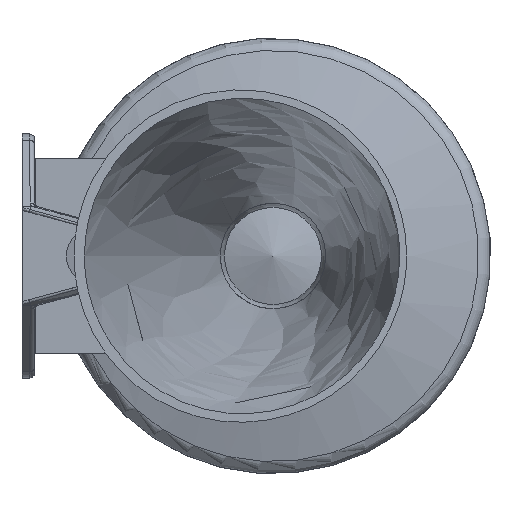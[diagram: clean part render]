
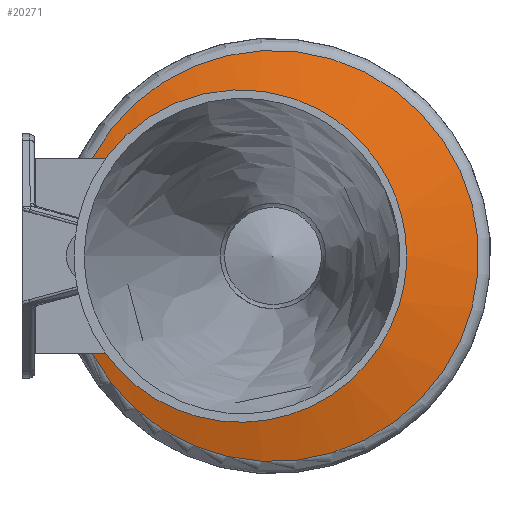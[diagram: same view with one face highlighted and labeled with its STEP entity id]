
A CAD part, front view. The second image highlights one B-rep face of the part: STEP entity #20271.
In plain terms, the highlighted conical face has half-angle 75 degrees and reference radius 42.86 mm.
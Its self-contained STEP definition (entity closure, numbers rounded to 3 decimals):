
#35=(
BOUNDED_CURVE()
B_SPLINE_CURVE(2,(#121849,#121850,#121851),.UNSPECIFIED.,.F.,.F.)
B_SPLINE_CURVE_WITH_KNOTS((3,3),(0.,0.935),.UNSPECIFIED.)
CURVE()
GEOMETRIC_REPRESENTATION_ITEM()
RATIONAL_B_SPLINE_CURVE((1.,1.004,1.))
REPRESENTATION_ITEM('')
);
#36=(
BOUNDED_CURVE()
B_SPLINE_CURVE(2,(#121853,#121854,#121855),.UNSPECIFIED.,.F.,.F.)
B_SPLINE_CURVE_WITH_KNOTS((3,3),(0.,0.843),.UNSPECIFIED.)
CURVE()
GEOMETRIC_REPRESENTATION_ITEM()
RATIONAL_B_SPLINE_CURVE((1.,1.002,1.))
REPRESENTATION_ITEM('')
);
#37=(
BOUNDED_CURVE()
B_SPLINE_CURVE(2,(#121859,#121860,#121861),.UNSPECIFIED.,.F.,.F.)
B_SPLINE_CURVE_WITH_KNOTS((3,3),(0.,0.843),.UNSPECIFIED.)
CURVE()
GEOMETRIC_REPRESENTATION_ITEM()
RATIONAL_B_SPLINE_CURVE((1.,1.002,1.))
REPRESENTATION_ITEM('')
);
#38=(
BOUNDED_CURVE()
B_SPLINE_CURVE(2,(#121863,#121864,#121865),.UNSPECIFIED.,.F.,.F.)
B_SPLINE_CURVE_WITH_KNOTS((3,3),(0.,0.935),.UNSPECIFIED.)
CURVE()
GEOMETRIC_REPRESENTATION_ITEM()
RATIONAL_B_SPLINE_CURVE((1.,1.004,1.))
REPRESENTATION_ITEM('')
);
#191=CIRCLE('',#20961,22.65);
#192=CIRCLE('',#20962,63.069);
#665=ELLIPSE('',#20832,47.592,47.565);
#705=ELLIPSE('',#20963,47.592,47.565);
#4881=FACE_OUTER_BOUND('',#6117,.T.);
#6117=EDGE_LOOP('',(#18816,#18817,#18818,#18819,#18820,#18821,#18822,#18823,
#18824,#18825));
#7779=B_SPLINE_CURVE_WITH_KNOTS('',3,(#120101,#120102,#120103,#120104),
 .UNSPECIFIED.,.F.,.F.,(4,4),(0.,2.624),.UNSPECIFIED.);
#7794=B_SPLINE_CURVE_WITH_KNOTS('',3,(#120401,#120402,#120403,#120404),
 .UNSPECIFIED.,.F.,.F.,(4,4),(-2.624,0.),.UNSPECIFIED.);
#9692=VERTEX_POINT('',#119641);
#9693=VERTEX_POINT('',#119643);
#9762=VERTEX_POINT('',#120098);
#9763=VERTEX_POINT('',#120100);
#9782=VERTEX_POINT('',#120400);
#9845=VERTEX_POINT('',#121848);
#9846=VERTEX_POINT('',#121852);
#9847=VERTEX_POINT('',#121856);
#9848=VERTEX_POINT('',#121858);
#9849=VERTEX_POINT('',#121862);
#12647=EDGE_CURVE('',#9693,#9692,#665,.T.);
#12741=EDGE_CURVE('',#9762,#9763,#7779,.T.);
#12765=EDGE_CURVE('',#9693,#9782,#7794,.T.);
#12873=EDGE_CURVE('',#9782,#9762,#191,.T.);
#12874=EDGE_CURVE('',#9692,#9845,#35,.T.);
#12875=EDGE_CURVE('',#9845,#9846,#36,.T.);
#12876=EDGE_CURVE('',#9846,#9847,#192,.T.);
#12877=EDGE_CURVE('',#9847,#9848,#37,.T.);
#12878=EDGE_CURVE('',#9848,#9849,#38,.T.);
#12879=EDGE_CURVE('',#9849,#9763,#705,.T.);
#18816=ORIENTED_EDGE('',*,*,#12741,.F.);
#18817=ORIENTED_EDGE('',*,*,#12873,.F.);
#18818=ORIENTED_EDGE('',*,*,#12765,.F.);
#18819=ORIENTED_EDGE('',*,*,#12647,.T.);
#18820=ORIENTED_EDGE('',*,*,#12874,.T.);
#18821=ORIENTED_EDGE('',*,*,#12875,.T.);
#18822=ORIENTED_EDGE('',*,*,#12876,.T.);
#18823=ORIENTED_EDGE('',*,*,#12877,.T.);
#18824=ORIENTED_EDGE('',*,*,#12878,.T.);
#18825=ORIENTED_EDGE('',*,*,#12879,.T.);
#19174=CONICAL_SURFACE('',#20960,42.86,1.309);
#20271=ADVANCED_FACE('',(#4881),#19174,.T.);
#20832=AXIS2_PLACEMENT_3D('',#119644,#22981,#22982);
#20960=AXIS2_PLACEMENT_3D('',#121846,#23309,#23310);
#20961=AXIS2_PLACEMENT_3D('',#121847,#23311,#23312);
#20962=AXIS2_PLACEMENT_3D('',#121857,#23313,#23314);
#20963=AXIS2_PLACEMENT_3D('',#121866,#23315,#23316);
#22981=DIRECTION('center_axis',(0.,-1.,
-0.009));
#22982=DIRECTION('ref_axis',(0.,0.009,-1.));
#23309=DIRECTION('center_axis',(0.,1.,0.));
#23310=DIRECTION('ref_axis',(1.,0.,0.));
#23311=DIRECTION('center_axis',(0.,-1.,0.));
#23312=DIRECTION('ref_axis',(1.,0.,0.));
#23313=DIRECTION('center_axis',(0.,-1.,0.));
#23314=DIRECTION('ref_axis',(1.,0.,0.));
#23315=DIRECTION('center_axis',(0.,-1.,
0.009));
#23316=DIRECTION('ref_axis',(0.,-0.009,
-1.));
#119641=CARTESIAN_POINT('',(-38.13,-5.,-30.));
#119643=CARTESIAN_POINT('',(-47.073,-5.189,-8.376));
#119644=CARTESIAN_POINT('Origin',(0.,-5.248,
-1.55));
#120098=CARTESIAN_POINT('',(-22.577,-11.931,1.82));
#120100=CARTESIAN_POINT('',(-47.073,-5.189,8.376));
#120101=CARTESIAN_POINT('Ctrl Pts',(-22.577,-11.931,
1.82));
#120102=CARTESIAN_POINT('Ctrl Pts',(-30.747,-9.702,4.004));
#120103=CARTESIAN_POINT('Ctrl Pts',(-38.91,-7.445,
6.19));
#120104=CARTESIAN_POINT('Ctrl Pts',(-47.073,-5.189,
8.376));
#120400=CARTESIAN_POINT('',(-22.577,-11.931,-1.82));
#120401=CARTESIAN_POINT('Ctrl Pts',(-47.073,-5.189,
-8.376));
#120402=CARTESIAN_POINT('Ctrl Pts',(-38.91,-7.445,
-6.19));
#120403=CARTESIAN_POINT('Ctrl Pts',(-30.747,-9.702,
-4.004));
#120404=CARTESIAN_POINT('Ctrl Pts',(-22.577,-11.931,
-1.82));
#121846=CARTESIAN_POINT('Origin',(0.,-6.516,
0.));
#121847=CARTESIAN_POINT('Origin',(0.,-11.931,
0.));
#121848=CARTESIAN_POINT('',(-47.264,-3.,-30.));
#121849=CARTESIAN_POINT('Ctrl Pts',(-38.13,-5.,-30.));
#121850=CARTESIAN_POINT('Ctrl Pts',(-42.37,-4.107,
-30.));
#121851=CARTESIAN_POINT('Ctrl Pts',(-47.264,-3.,-30.));
#121852=CARTESIAN_POINT('',(-55.477,-1.101,-30.));
#121853=CARTESIAN_POINT('Ctrl Pts',(-47.264,-3.,-30.));
#121854=CARTESIAN_POINT('Ctrl Pts',(-51.126,-2.126,
-30.));
#121855=CARTESIAN_POINT('Ctrl Pts',(-55.477,-1.101,
-30.));
#121856=CARTESIAN_POINT('',(-55.477,-1.101,30.));
#121857=CARTESIAN_POINT('Origin',(0.,-1.101,
0.));
#121858=CARTESIAN_POINT('',(-47.264,-3.,30.));
#121859=CARTESIAN_POINT('Ctrl Pts',(-55.477,-1.101,
30.));
#121860=CARTESIAN_POINT('Ctrl Pts',(-51.126,-2.126,
30.));
#121861=CARTESIAN_POINT('Ctrl Pts',(-47.264,-3.,30.));
#121862=CARTESIAN_POINT('',(-38.13,-5.,30.));
#121863=CARTESIAN_POINT('Ctrl Pts',(-47.264,-3.,30.));
#121864=CARTESIAN_POINT('Ctrl Pts',(-42.37,-4.107,
30.));
#121865=CARTESIAN_POINT('Ctrl Pts',(-38.13,-5.,
30.));
#121866=CARTESIAN_POINT('Origin',(0.,-5.248,
1.55));
